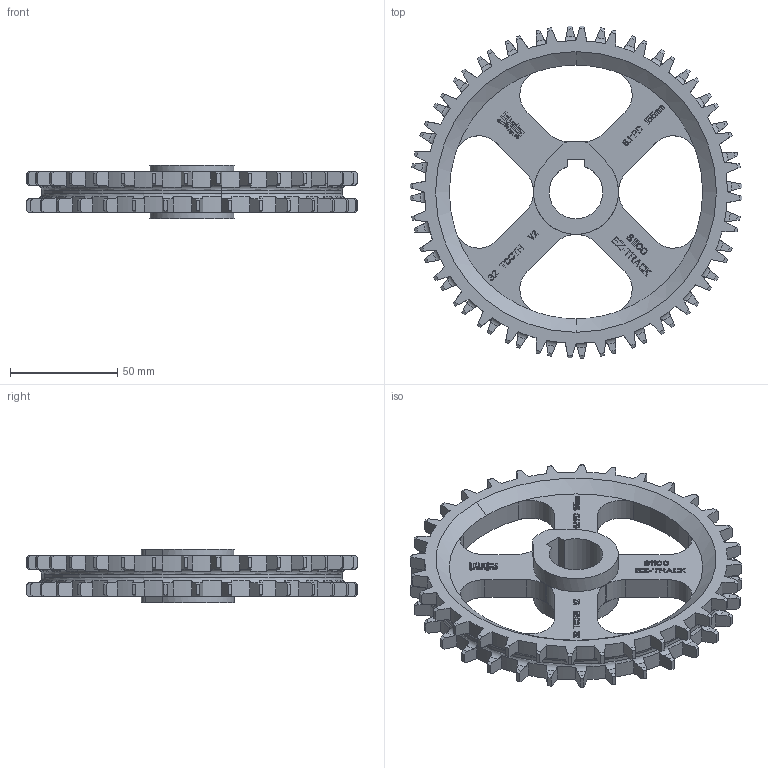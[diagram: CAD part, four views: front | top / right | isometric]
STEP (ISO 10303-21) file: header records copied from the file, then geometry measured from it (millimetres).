
FILE_DESCRIPTION((''),'2;1');
FILE_NAME('S1100_EZ_TRACK_CLEAN_61X1_PILOT','2008-12-12T',('jmumphre'),(''),'PRO/ENGINEER BY PARAMETRIC TECHNOLOGY CORPORATION, 2008150','PRO/ENGINEER BY PARAMETRIC TECHNOLOGY CORPORATION, 2008150','');
FILE_SCHEMA(('CONFIG_CONTROL_DESIGN'));
Length unit declared in the file: inch
Products named in the file (1): S1100_EZ_TRACK_CLEAN_61X1_PILOT
Bounding box: 154.72 x 154.72 x 24.89 mm (x, y, z)
Volume: 144447.6 mm3; surface area: 44871.2 mm2
Topology: 1 solids, 1 shells, 1575 faces, 4534 edges, 3016 vertices
Faces by surface type: plane 1324, cylinder 179, cone 68, torus 4
Entity records: 52106 total; most frequent: CARTESIAN_POINT 10813, ORIENTED_EDGE 9068, DIRECTION 7878, EDGE_CURVE 4534, VECTOR 3692, LINE 3692, VERTEX_POINT 3016, AXIS2_PLACEMENT_3D 2093
